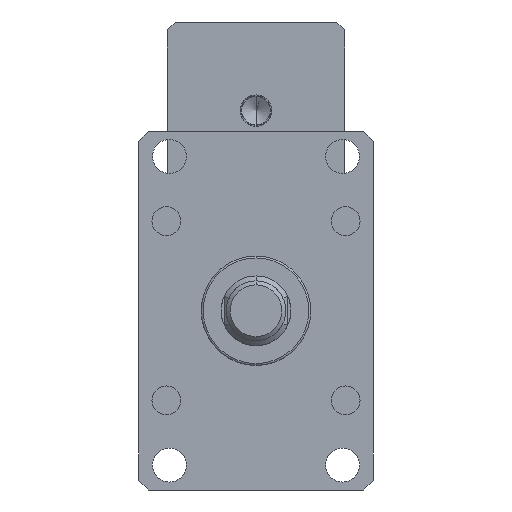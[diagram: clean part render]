
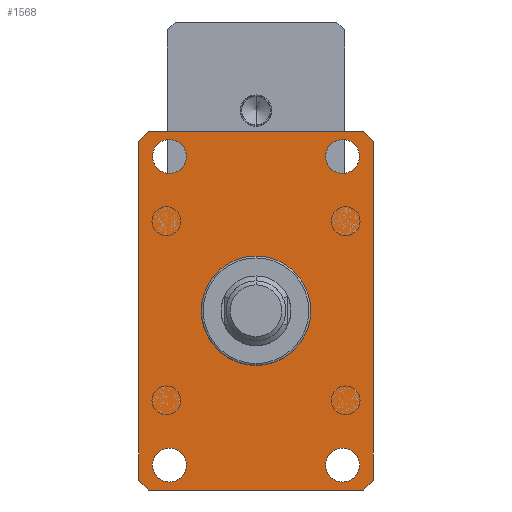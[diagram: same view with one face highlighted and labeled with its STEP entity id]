
A CAD part, front view. The second image highlights one B-rep face of the part: STEP entity #1568.
In plain terms, the highlighted planar face has unit normal (0, -1, 0).
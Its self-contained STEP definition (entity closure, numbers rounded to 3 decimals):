
#146 = VERTEX_POINT ( 'NONE', #11937 ) ;
#205 = FACE_BOUND ( 'NONE', #5215, .T. ) ;
#272 = CARTESIAN_POINT ( 'NONE',  ( -59., -55., -85. ) ) ;
#432 = VERTEX_POINT ( 'NONE', #11315 ) ;
#453 = AXIS2_PLACEMENT_3D ( 'NONE', #2415, #9352, #3442 ) ;
#622 = CARTESIAN_POINT ( 'NONE',  ( -43.5, -55., -86. ) ) ;
#777 = DIRECTION ( 'NONE',  ( 0., 0., 1. ) ) ;
#887 = PLANE ( 'NONE',  #11003 ) ;
#937 = DIRECTION ( 'NONE',  ( 0., -1., 0. ) ) ;
#1111 = CARTESIAN_POINT ( 'NONE',  ( -43.5, -55., 77.5 ) ) ;
#1192 = CARTESIAN_POINT ( 'NONE',  ( 54., -55., -90. ) ) ;
#1259 = CIRCLE ( 'NONE', #10130, 8.5 ) ;
#1263 = CARTESIAN_POINT ( 'NONE',  ( -54., -55., 90. ) ) ;
#1501 = CARTESIAN_POINT ( 'NONE',  ( 43.5, -55., -77.5 ) ) ;
#1541 = VERTEX_POINT ( 'NONE', #12675 ) ;
#1568 = ADVANCED_FACE ( 'NONE', ( #2528, #7843, #12710, #10140, #205 ), #887, .F. ) ;
#1585 = VECTOR ( 'NONE', #8175, 1000. ) ;
#1631 = CARTESIAN_POINT ( 'NONE',  ( 54., -55., 90. ) ) ;
#1665 = VECTOR ( 'NONE', #12563, 1000. ) ;
#1720 = EDGE_CURVE ( 'NONE', #9450, #7471, #8605, .T. ) ;
#1858 = ORIENTED_EDGE ( 'NONE', *, *, #1720, .T. ) ;
#1877 = DIRECTION ( 'NONE',  ( 0., 0., 1. ) ) ;
#1970 = ORIENTED_EDGE ( 'NONE', *, *, #6243, .T. ) ;
#2106 = DIRECTION ( 'NONE',  ( 0., 0., -1. ) ) ;
#2187 = ORIENTED_EDGE ( 'NONE', *, *, #8435, .T. ) ;
#2241 = VERTEX_POINT ( 'NONE', #9901 ) ;
#2285 = CARTESIAN_POINT ( 'NONE',  ( 59., -55., -85. ) ) ;
#2415 = CARTESIAN_POINT ( 'NONE',  ( -43.5, -55., 77.5 ) ) ;
#2521 = DIRECTION ( 'NONE',  ( 0., 0., 1. ) ) ;
#2528 = FACE_BOUND ( 'NONE', #10772, .T. ) ;
#2583 = VERTEX_POINT ( 'NONE', #3242 ) ;
#2726 = DIRECTION ( 'NONE',  ( 0., -1., 0. ) ) ;
#2743 = AXIS2_PLACEMENT_3D ( 'NONE', #5461, #12321, #6476 ) ;
#2943 = LINE ( 'NONE', #6606, #9294 ) ;
#3006 = EDGE_CURVE ( 'NONE', #7471, #6295, #9327, .T. ) ;
#3050 = ORIENTED_EDGE ( 'NONE', *, *, #8870, .T. ) ;
#3126 = ORIENTED_EDGE ( 'NONE', *, *, #3542, .F. ) ;
#3242 = CARTESIAN_POINT ( 'NONE',  ( -54., -55., 90. ) ) ;
#3442 = DIRECTION ( 'NONE',  ( 0., 0., -1. ) ) ;
#3542 = EDGE_CURVE ( 'NONE', #432, #5076, #6725, .T. ) ;
#3606 = DIRECTION ( 'NONE',  ( 0.707, 0., -0.707 ) ) ;
#3680 = AXIS2_PLACEMENT_3D ( 'NONE', #1111, #8089, #2106 ) ;
#3879 = EDGE_CURVE ( 'NONE', #1541, #9450, #7935, .T. ) ;
#3923 = EDGE_CURVE ( 'NONE', #2241, #11371, #12801, .T. ) ;
#3988 = EDGE_CURVE ( 'NONE', #11371, #2241, #6714, .T. ) ;
#4097 = DIRECTION ( 'NONE',  ( 0., 0., 1. ) ) ;
#4157 = CARTESIAN_POINT ( 'NONE',  ( 43.5, -55., 86. ) ) ;
#4316 = DIRECTION ( 'NONE',  ( -1., 0., 0. ) ) ;
#4413 = VERTEX_POINT ( 'NONE', #8754 ) ;
#4465 = ORIENTED_EDGE ( 'NONE', *, *, #7308, .F. ) ;
#4668 = LINE ( 'NONE', #7702, #1665 ) ;
#4673 = EDGE_LOOP ( 'NONE', ( #6165, #1858, #7670, #3050, #5473, #1970, #5140, #9146 ) ) ;
#4741 = DIRECTION ( 'NONE',  ( -0.707, 0., -0.707 ) ) ;
#4774 = VERTEX_POINT ( 'NONE', #622 ) ;
#5076 = VERTEX_POINT ( 'NONE', #4157 ) ;
#5140 = ORIENTED_EDGE ( 'NONE', *, *, #11360, .T. ) ;
#5215 = EDGE_LOOP ( 'NONE', ( #4465, #3126 ) ) ;
#5461 = CARTESIAN_POINT ( 'NONE',  ( 43.5, -55., -77.5 ) ) ;
#5473 = ORIENTED_EDGE ( 'NONE', *, *, #11565, .T. ) ;
#5539 = ORIENTED_EDGE ( 'NONE', *, *, #8015, .T. ) ;
#5570 = DIRECTION ( 'NONE',  ( 0., 1., 0. ) ) ;
#5629 = CARTESIAN_POINT ( 'NONE',  ( -59., -55., 85. ) ) ;
#6012 = CARTESIAN_POINT ( 'NONE',  ( -54., -55., -90. ) ) ;
#6165 = ORIENTED_EDGE ( 'NONE', *, *, #3879, .T. ) ;
#6243 = EDGE_CURVE ( 'NONE', #2583, #9475, #11535, .T. ) ;
#6293 = EDGE_CURVE ( 'NONE', #146, #4774, #10914, .T. ) ;
#6295 = VERTEX_POINT ( 'NONE', #10473 ) ;
#6476 = DIRECTION ( 'NONE',  ( 0., 0., 1. ) ) ;
#6522 = ORIENTED_EDGE ( 'NONE', *, *, #3923, .F. ) ;
#6606 = CARTESIAN_POINT ( 'NONE',  ( 54., -55., 90. ) ) ;
#6714 = CIRCLE ( 'NONE', #453, 8.5 ) ;
#6725 = CIRCLE ( 'NONE', #11437, 8.5 ) ;
#6757 = DIRECTION ( 'NONE',  ( 0., 1., 0. ) ) ;
#6922 = CARTESIAN_POINT ( 'NONE',  ( 43.5, -55., 77.5 ) ) ;
#7017 = DIRECTION ( 'NONE',  ( 1., 0., 0. ) ) ;
#7183 = AXIS2_PLACEMENT_3D ( 'NONE', #12600, #6757, #777 ) ;
#7308 = EDGE_CURVE ( 'NONE', #5076, #432, #1259, .T. ) ;
#7437 = VERTEX_POINT ( 'NONE', #8207 ) ;
#7471 = VERTEX_POINT ( 'NONE', #2285 ) ;
#7498 = CIRCLE ( 'NONE', #2743, 8.5 ) ;
#7621 = LINE ( 'NONE', #9512, #10816 ) ;
#7670 = ORIENTED_EDGE ( 'NONE', *, *, #3006, .T. ) ;
#7702 = CARTESIAN_POINT ( 'NONE',  ( -59., -55., 85. ) ) ;
#7730 = ORIENTED_EDGE ( 'NONE', *, *, #3988, .F. ) ;
#7843 = FACE_BOUND ( 'NONE', #8192, .T. ) ;
#7859 = DIRECTION ( 'NONE',  ( 0., 1., 0. ) ) ;
#7906 = DIRECTION ( 'NONE',  ( 0., 0., -1. ) ) ;
#7935 = LINE ( 'NONE', #6012, #8243 ) ;
#8015 = EDGE_CURVE ( 'NONE', #4413, #7437, #7498, .T. ) ;
#8089 = DIRECTION ( 'NONE',  ( 0., -1., 0. ) ) ;
#8175 = DIRECTION ( 'NONE',  ( 0.707, 0., 0.707 ) ) ;
#8192 = EDGE_LOOP ( 'NONE', ( #11619, #5539 ) ) ;
#8207 = CARTESIAN_POINT ( 'NONE',  ( 43.5, -55., -69. ) ) ;
#8243 = VECTOR ( 'NONE', #7017, 1000. ) ;
#8355 = ORIENTED_EDGE ( 'NONE', *, *, #6293, .T. ) ;
#8435 = EDGE_CURVE ( 'NONE', #4774, #146, #11296, .T. ) ;
#8473 = DIRECTION ( 'NONE',  ( 0., 1., 0. ) ) ;
#8605 = LINE ( 'NONE', #1192, #1585 ) ;
#8640 = VECTOR ( 'NONE', #4741, 1000. ) ;
#8685 = CARTESIAN_POINT ( 'NONE',  ( 43.5, -55., 77.5 ) ) ;
#8754 = CARTESIAN_POINT ( 'NONE',  ( 43.5, -55., -86. ) ) ;
#8870 = EDGE_CURVE ( 'NONE', #6295, #9478, #2943, .T. ) ;
#9146 = ORIENTED_EDGE ( 'NONE', *, *, #11285, .T. ) ;
#9183 = EDGE_CURVE ( 'NONE', #7437, #4413, #11427, .T. ) ;
#9294 = VECTOR ( 'NONE', #11475, 1000. ) ;
#9327 = LINE ( 'NONE', #10966, #11930 ) ;
#9352 = DIRECTION ( 'NONE',  ( 0., -1., 0. ) ) ;
#9450 = VERTEX_POINT ( 'NONE', #11722 ) ;
#9475 = VERTEX_POINT ( 'NONE', #5629 ) ;
#9478 = VERTEX_POINT ( 'NONE', #1631 ) ;
#9512 = CARTESIAN_POINT ( 'NONE',  ( -59., -55., -85. ) ) ;
#9637 = CARTESIAN_POINT ( 'NONE',  ( -59., -55., 85. ) ) ;
#9652 = CARTESIAN_POINT ( 'NONE',  ( -43.5, -55., 69. ) ) ;
#9653 = DIRECTION ( 'NONE',  ( 0., 0., -1. ) ) ;
#9901 = CARTESIAN_POINT ( 'NONE',  ( -43.5, -55., 86. ) ) ;
#10050 = VECTOR ( 'NONE', #4316, 1000. ) ;
#10130 = AXIS2_PLACEMENT_3D ( 'NONE', #6922, #937, #7906 ) ;
#10140 = FACE_OUTER_BOUND ( 'NONE', #4673, .T. ) ;
#10473 = CARTESIAN_POINT ( 'NONE',  ( 59., -55., 85. ) ) ;
#10772 = EDGE_LOOP ( 'NONE', ( #6522, #7730 ) ) ;
#10816 = VECTOR ( 'NONE', #3606, 1000. ) ;
#10914 = CIRCLE ( 'NONE', #11742, 8.5 ) ;
#10966 = CARTESIAN_POINT ( 'NONE',  ( 59., -55., 85. ) ) ;
#11003 = AXIS2_PLACEMENT_3D ( 'NONE', #11745, #7859, #1877 ) ;
#11285 = EDGE_CURVE ( 'NONE', #12128, #1541, #7621, .T. ) ;
#11296 = CIRCLE ( 'NONE', #7183, 8.5 ) ;
#11315 = CARTESIAN_POINT ( 'NONE',  ( 43.5, -55., 69. ) ) ;
#11360 = EDGE_CURVE ( 'NONE', #9475, #12128, #4668, .T. ) ;
#11371 = VERTEX_POINT ( 'NONE', #9652 ) ;
#11427 = CIRCLE ( 'NONE', #12329, 8.5 ) ;
#11437 = AXIS2_PLACEMENT_3D ( 'NONE', #8685, #2726, #9653 ) ;
#11457 = CARTESIAN_POINT ( 'NONE',  ( -43.5, -55., -77.5 ) ) ;
#11475 = DIRECTION ( 'NONE',  ( -0.707, 0., 0.707 ) ) ;
#11482 = EDGE_LOOP ( 'NONE', ( #8355, #2187 ) ) ;
#11535 = LINE ( 'NONE', #9637, #8640 ) ;
#11565 = EDGE_CURVE ( 'NONE', #9478, #2583, #12638, .T. ) ;
#11619 = ORIENTED_EDGE ( 'NONE', *, *, #9183, .T. ) ;
#11722 = CARTESIAN_POINT ( 'NONE',  ( 54., -55., -90. ) ) ;
#11742 = AXIS2_PLACEMENT_3D ( 'NONE', #11457, #5570, #12435 ) ;
#11745 = CARTESIAN_POINT ( 'NONE',  ( 59., -55., -90. ) ) ;
#11930 = VECTOR ( 'NONE', #4097, 1000. ) ;
#11937 = CARTESIAN_POINT ( 'NONE',  ( -43.5, -55., -69. ) ) ;
#12128 = VERTEX_POINT ( 'NONE', #272 ) ;
#12321 = DIRECTION ( 'NONE',  ( 0., 1., 0. ) ) ;
#12329 = AXIS2_PLACEMENT_3D ( 'NONE', #1501, #8473, #2521 ) ;
#12435 = DIRECTION ( 'NONE',  ( 0., 0., 1. ) ) ;
#12563 = DIRECTION ( 'NONE',  ( 0., 0., -1. ) ) ;
#12600 = CARTESIAN_POINT ( 'NONE',  ( -43.5, -55., -77.5 ) ) ;
#12638 = LINE ( 'NONE', #1263, #10050 ) ;
#12675 = CARTESIAN_POINT ( 'NONE',  ( -54., -55., -90. ) ) ;
#12710 = FACE_BOUND ( 'NONE', #11482, .T. ) ;
#12801 = CIRCLE ( 'NONE', #3680, 8.5 ) ;
